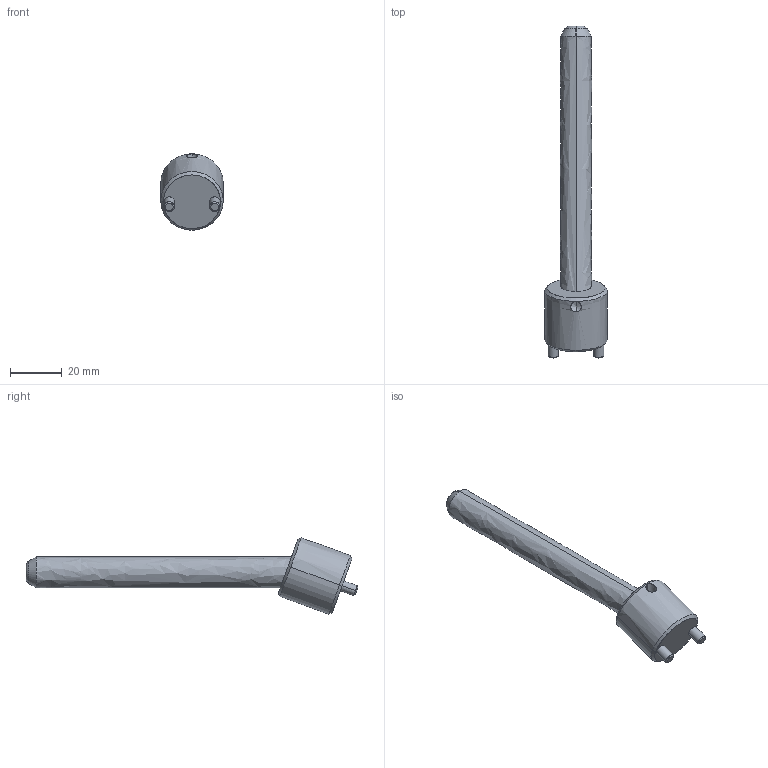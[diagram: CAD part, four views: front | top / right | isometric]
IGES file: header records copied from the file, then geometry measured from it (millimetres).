
Start section: START RECORD GO HERE.
Global section: file name: CI2012100.igs; native system: DASSAULT SYSTEMES CATIA V5 R20 - www.3ds.com; preprocessor: CATIA Version 5 Release 20 ; author: r.borello; organization: CFTORINO; date: 20190621.121629; units: millimetre
Bounding box: 24 x 127.68 x 29.39 mm (x, y, z)
Surface area: 7956.7 mm2 (no closed solid volume)
Topology: 0 solids, 0 shells, 39 faces, 162 edges, 160 vertices
Faces by surface type: revolution 32, plane 7
